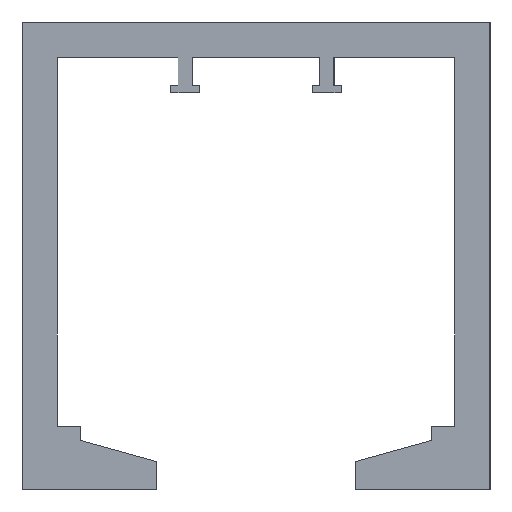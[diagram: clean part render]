
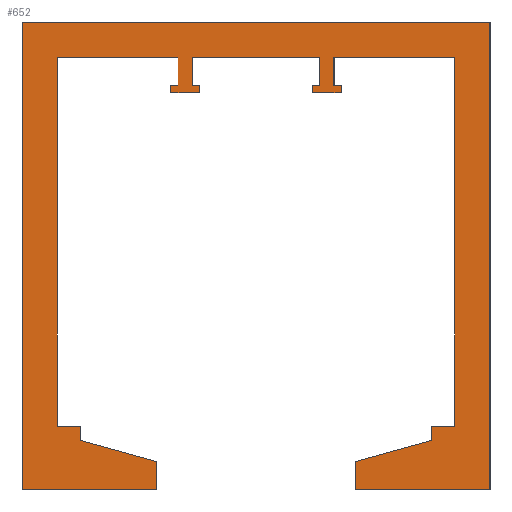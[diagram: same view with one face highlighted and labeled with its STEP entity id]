
A CAD part, left-side view. The second image highlights one B-rep face of the part: STEP entity #652.
In plain terms, the highlighted planar face has unit normal (-1, 0, 0).
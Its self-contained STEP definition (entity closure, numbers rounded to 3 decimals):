
#652=ADVANCED_FACE('',(#1178),#1179,.F.);
#1178=FACE_OUTER_BOUND('',#1876,.T.);
#1179=PLANE('',#1877);
#1876=EDGE_LOOP('',(#2536,#2537,#2538,#2539,#2540,#2541,#2542,#2543,#2544,#2545,#2546,#2547,#2548,#2549,#2550,#2551,#2552,#2553,#2554,#2555,#2556,#2557,#2558,#2559,#2560,#2561,#2562,#2563,#2564,#2565,#2566,#2567,#2568,#2569,#2570,#2571));
#1877=AXIS2_PLACEMENT_3D('',#2572,#2573,#2574);
#2536=ORIENTED_EDGE('',*,*,#3285,.T.);
#2537=ORIENTED_EDGE('',*,*,#3302,.T.);
#2538=ORIENTED_EDGE('',*,*,#3303,.T.);
#2539=ORIENTED_EDGE('',*,*,#3294,.T.);
#2540=ORIENTED_EDGE('',*,*,#3304,.F.);
#2541=ORIENTED_EDGE('',*,*,#3180,.T.);
#2542=ORIENTED_EDGE('',*,*,#3250,.T.);
#2543=ORIENTED_EDGE('',*,*,#3255,.F.);
#2544=ORIENTED_EDGE('',*,*,#3244,.F.);
#2545=ORIENTED_EDGE('',*,*,#3275,.T.);
#2546=ORIENTED_EDGE('',*,*,#3305,.T.);
#2547=ORIENTED_EDGE('',*,*,#3306,.T.);
#2548=ORIENTED_EDGE('',*,*,#3307,.T.);
#2549=ORIENTED_EDGE('',*,*,#3308,.T.);
#2550=ORIENTED_EDGE('',*,*,#3309,.T.);
#2551=ORIENTED_EDGE('',*,*,#3310,.T.);
#2552=ORIENTED_EDGE('',*,*,#3311,.F.);
#2553=ORIENTED_EDGE('',*,*,#3312,.T.);
#2554=ORIENTED_EDGE('',*,*,#3313,.T.);
#2555=ORIENTED_EDGE('',*,*,#3314,.T.);
#2556=ORIENTED_EDGE('',*,*,#3315,.T.);
#2557=ORIENTED_EDGE('',*,*,#3316,.T.);
#2558=ORIENTED_EDGE('',*,*,#3317,.T.);
#2559=ORIENTED_EDGE('',*,*,#3318,.T.);
#2560=ORIENTED_EDGE('',*,*,#3319,.F.);
#2561=ORIENTED_EDGE('',*,*,#3297,.F.);
#2562=ORIENTED_EDGE('',*,*,#3320,.F.);
#2563=ORIENTED_EDGE('',*,*,#3321,.T.);
#2564=ORIENTED_EDGE('',*,*,#3280,.T.);
#2565=ORIENTED_EDGE('',*,*,#3322,.F.);
#2566=ORIENTED_EDGE('',*,*,#3323,.F.);
#2567=ORIENTED_EDGE('',*,*,#3324,.F.);
#2568=ORIENTED_EDGE('',*,*,#3325,.T.);
#2569=ORIENTED_EDGE('',*,*,#3326,.T.);
#2570=ORIENTED_EDGE('',*,*,#3327,.T.);
#2571=ORIENTED_EDGE('',*,*,#3288,.T.);
#2572=CARTESIAN_POINT('',(0.0,5.0,-3.5));
#2573=DIRECTION('',(1.0,0.0,0.0));
#2574=DIRECTION('',(0.0,0.0,-1.0));
#3180=EDGE_CURVE('',#3692,#3690,#3693,.T.);
#3244=EDGE_CURVE('',#3784,#3787,#3788,.T.);
#3250=EDGE_CURVE('',#3690,#3795,#3797,.T.);
#3255=EDGE_CURVE('',#3787,#3795,#3804,.T.);
#3275=EDGE_CURVE('',#3784,#3827,#3829,.T.);
#3280=EDGE_CURVE('',#3837,#3835,#3838,.T.);
#3285=EDGE_CURVE('',#3846,#3844,#3847,.T.);
#3288=EDGE_CURVE('',#3850,#3846,#3851,.T.);
#3294=EDGE_CURVE('',#3861,#3859,#3862,.T.);
#3297=EDGE_CURVE('',#3865,#3866,#3867,.T.);
#3302=EDGE_CURVE('',#3844,#3874,#3875,.T.);
#3303=EDGE_CURVE('',#3874,#3861,#3876,.T.);
#3304=EDGE_CURVE('',#3692,#3859,#3877,.T.);
#3305=EDGE_CURVE('',#3827,#3878,#3879,.T.);
#3306=EDGE_CURVE('',#3878,#3880,#3881,.T.);
#3307=EDGE_CURVE('',#3880,#3882,#3883,.T.);
#3308=EDGE_CURVE('',#3882,#3884,#3885,.T.);
#3309=EDGE_CURVE('',#3884,#3886,#3887,.T.);
#3310=EDGE_CURVE('',#3886,#3888,#3889,.T.);
#3311=EDGE_CURVE('',#3890,#3888,#3891,.T.);
#3312=EDGE_CURVE('',#3890,#3892,#3893,.T.);
#3313=EDGE_CURVE('',#3892,#3894,#3895,.T.);
#3314=EDGE_CURVE('',#3894,#3896,#3897,.T.);
#3315=EDGE_CURVE('',#3896,#3898,#3899,.T.);
#3316=EDGE_CURVE('',#3898,#3900,#3901,.T.);
#3317=EDGE_CURVE('',#3900,#3902,#3903,.T.);
#3318=EDGE_CURVE('',#3902,#3904,#3905,.T.);
#3319=EDGE_CURVE('',#3866,#3904,#3906,.T.);
#3320=EDGE_CURVE('',#3907,#3865,#3908,.T.);
#3321=EDGE_CURVE('',#3907,#3837,#3909,.T.);
#3322=EDGE_CURVE('',#3910,#3835,#3911,.T.);
#3323=EDGE_CURVE('',#3912,#3910,#3913,.T.);
#3324=EDGE_CURVE('',#3914,#3912,#3915,.T.);
#3325=EDGE_CURVE('',#3914,#3916,#3917,.T.);
#3326=EDGE_CURVE('',#3916,#3918,#3919,.T.);
#3327=EDGE_CURVE('',#3918,#3850,#3920,.T.);
#3690=VERTEX_POINT('',#4144);
#3692=VERTEX_POINT('',#4146);
#3693=LINE('',#4147,#4148);
#3784=VERTEX_POINT('',#4267);
#3787=VERTEX_POINT('',#4270);
#3788=LINE('',#4271,#4272);
#3795=VERTEX_POINT('',#4281);
#3797=LINE('',#4283,#4284);
#3804=LINE('',#4292,#4293);
#3827=VERTEX_POINT('',#4323);
#3829=LINE('',#4326,#4327);
#3835=VERTEX_POINT('',#4334);
#3837=VERTEX_POINT('',#4337);
#3838=LINE('',#4338,#4339);
#3844=VERTEX_POINT('',#4347);
#3846=VERTEX_POINT('',#4350);
#3847=LINE('',#4351,#4352);
#3850=VERTEX_POINT('',#4356);
#3851=LINE('',#4357,#4358);
#3859=VERTEX_POINT('',#4369);
#3861=VERTEX_POINT('',#4372);
#3862=LINE('',#4373,#4374);
#3865=VERTEX_POINT('',#4378);
#3866=VERTEX_POINT('',#4379);
#3867=LINE('',#4380,#4381);
#3874=VERTEX_POINT('',#4391);
#3875=LINE('',#4392,#4393);
#3876=LINE('',#4394,#4395);
#3877=LINE('',#4396,#4397);
#3878=VERTEX_POINT('',#4398);
#3879=LINE('',#4399,#4400);
#3880=VERTEX_POINT('',#4401);
#3881=LINE('',#4402,#4403);
#3882=VERTEX_POINT('',#4404);
#3883=LINE('',#4405,#4406);
#3884=VERTEX_POINT('',#4407);
#3885=LINE('',#4408,#4409);
#3886=VERTEX_POINT('',#4410);
#3887=LINE('',#4411,#4412);
#3888=VERTEX_POINT('',#4413);
#3889=LINE('',#4414,#4415);
#3890=VERTEX_POINT('',#4416);
#3891=LINE('',#4417,#4418);
#3892=VERTEX_POINT('',#4419);
#3893=LINE('',#4420,#4421);
#3894=VERTEX_POINT('',#4422);
#3895=LINE('',#4423,#4424);
#3896=VERTEX_POINT('',#4425);
#3897=LINE('',#4426,#4427);
#3898=VERTEX_POINT('',#4428);
#3899=LINE('',#4429,#4430);
#3900=VERTEX_POINT('',#4431);
#3901=LINE('',#4432,#4433);
#3902=VERTEX_POINT('',#4434);
#3903=LINE('',#4435,#4436);
#3904=VERTEX_POINT('',#4437);
#3905=LINE('',#4438,#4439);
#3906=LINE('',#4440,#4441);
#3907=VERTEX_POINT('',#4442);
#3908=LINE('',#4443,#4444);
#3909=LINE('',#4445,#4446);
#3910=VERTEX_POINT('',#4447);
#3911=LINE('',#4448,#4449);
#3912=VERTEX_POINT('',#4450);
#3913=LINE('',#4451,#4452);
#3914=VERTEX_POINT('',#4453);
#3915=LINE('',#4454,#4455);
#3916=VERTEX_POINT('',#4456);
#3917=LINE('',#4457,#4458);
#3918=VERTEX_POINT('',#4459);
#3919=LINE('',#4460,#4461);
#3920=LINE('',#4462,#4463);
#4144=CARTESIAN_POINT('',(0.,5.5,-4.495));
#4146=CARTESIAN_POINT('',(0.0,5.5,-2.5));
#4147=CARTESIAN_POINT('',(0.0,5.5,-2.5));
#4148=VECTOR('',#4684,1.0);
#4267=CARTESIAN_POINT('',(0.,5.5,-4.497));
#4270=CARTESIAN_POINT('',(0.,5.505,-4.497));
#4271=CARTESIAN_POINT('',(0.,5.5,-4.497));
#4272=VECTOR('',#4764,1.0);
#4281=CARTESIAN_POINT('',(0.,5.505,-4.495));
#4283=CARTESIAN_POINT('',(0.,5.5,-4.495));
#4284=VECTOR('',#4773,1.0);
#4292=CARTESIAN_POINT('',(0.,5.505,-4.497));
#4293=VECTOR('',#4781,1.0);
#4323=CARTESIAN_POINT('',(0.0,5.5,-4.5));
#4326=CARTESIAN_POINT('',(0.0,5.5,-2.5));
#4327=VECTOR('',#4802,1.0);
#4334=CARTESIAN_POINT('',(0.0,-7.0,-31.0));
#4337=CARTESIAN_POINT('',(0.0,-12.375,-29.5));
#4338=CARTESIAN_POINT('',(0.0,-4.993,-31.56));
#4339=VECTOR('',#4805,1.0);
#4347=CARTESIAN_POINT('',(0.0,12.375,-29.5));
#4350=CARTESIAN_POINT('',(0.0,7.0,-31.0));
#4351=CARTESIAN_POINT('',(0.0,12.32,-29.515));
#4352=VECTOR('',#4809,1.0);
#4356=CARTESIAN_POINT('',(0.0,7.0,-33.0));
#4357=CARTESIAN_POINT('',(0.0,7.0,-33.0));
#4358=VECTOR('',#4811,1.0);
#4369=CARTESIAN_POINT('',(0.0,14.0,-2.5));
#4372=CARTESIAN_POINT('',(0.0,14.0,-28.5));
#4373=CARTESIAN_POINT('',(0.0,14.0,-28.5));
#4374=VECTOR('',#4816,1.0);
#4378=CARTESIAN_POINT('',(0.0,-14.0,-28.5));
#4379=CARTESIAN_POINT('',(0.0,-14.0,-2.5));
#4380=CARTESIAN_POINT('',(0.0,-14.0,-28.5));
#4381=VECTOR('',#4818,1.0);
#4391=CARTESIAN_POINT('',(0.0,12.375,-28.5));
#4392=CARTESIAN_POINT('',(0.0,12.375,-29.26));
#4393=VECTOR('',#4822,1.0);
#4394=CARTESIAN_POINT('',(0.0,12.375,-28.5));
#4395=VECTOR('',#4823,1.0);
#4396=CARTESIAN_POINT('',(0.0,-14.0,-2.5));
#4397=VECTOR('',#4824,1.0);
#4398=CARTESIAN_POINT('',(0.0,6.0,-4.5));
#4399=CARTESIAN_POINT('',(0.0,4.0,-4.5));
#4400=VECTOR('',#4825,1.0);
#4401=CARTESIAN_POINT('',(0.0,6.0,-5.0));
#4402=CARTESIAN_POINT('',(0.0,6.0,-4.5));
#4403=VECTOR('',#4826,1.0);
#4404=CARTESIAN_POINT('',(0.0,4.0,-5.0));
#4405=CARTESIAN_POINT('',(0.0,6.0,-5.0));
#4406=VECTOR('',#4827,1.0);
#4407=CARTESIAN_POINT('',(0.0,4.0,-4.5));
#4408=CARTESIAN_POINT('',(0.0,4.0,-5.0));
#4409=VECTOR('',#4828,1.0);
#4410=CARTESIAN_POINT('',(0.0,4.5,-4.5));
#4411=CARTESIAN_POINT('',(0.0,4.0,-4.5));
#4412=VECTOR('',#4829,1.0);
#4413=CARTESIAN_POINT('',(0.0,4.5,-2.5));
#4414=CARTESIAN_POINT('',(0.0,4.5,-4.5));
#4415=VECTOR('',#4830,1.0);
#4416=CARTESIAN_POINT('',(0.0,-4.5,-2.5));
#4417=CARTESIAN_POINT('',(0.0,-14.0,-2.5));
#4418=VECTOR('',#4831,1.0);
#4419=CARTESIAN_POINT('',(0.0,-4.5,-4.5));
#4420=CARTESIAN_POINT('',(0.0,-4.5,-2.5));
#4421=VECTOR('',#4832,1.0);
#4422=CARTESIAN_POINT('',(0.0,-4.0,-4.5));
#4423=CARTESIAN_POINT('',(0.0,-6.0,-4.5));
#4424=VECTOR('',#4833,1.0);
#4425=CARTESIAN_POINT('',(0.0,-4.0,-5.0));
#4426=CARTESIAN_POINT('',(0.0,-4.0,-4.5));
#4427=VECTOR('',#4834,1.0);
#4428=CARTESIAN_POINT('',(0.0,-6.0,-5.0));
#4429=CARTESIAN_POINT('',(0.0,-4.0,-5.0));
#4430=VECTOR('',#4835,1.0);
#4431=CARTESIAN_POINT('',(0.0,-6.0,-4.5));
#4432=CARTESIAN_POINT('',(0.0,-6.0,-5.0));
#4433=VECTOR('',#4836,1.0);
#4434=CARTESIAN_POINT('',(0.0,-5.5,-4.5));
#4435=CARTESIAN_POINT('',(0.0,-6.0,-4.5));
#4436=VECTOR('',#4837,1.0);
#4437=CARTESIAN_POINT('',(0.0,-5.5,-2.5));
#4438=CARTESIAN_POINT('',(0.0,-5.5,-4.5));
#4439=VECTOR('',#4838,1.0);
#4440=CARTESIAN_POINT('',(0.0,-14.0,-2.5));
#4441=VECTOR('',#4839,1.0);
#4442=CARTESIAN_POINT('',(0.0,-12.375,-28.5));
#4443=CARTESIAN_POINT('',(0.0,-12.375,-28.5));
#4444=VECTOR('',#4840,1.0);
#4445=CARTESIAN_POINT('',(0.0,-12.375,-16.5));
#4446=VECTOR('',#4841,1.0);
#4447=CARTESIAN_POINT('',(0.0,-7.0,-33.0));
#4448=CARTESIAN_POINT('',(0.0,-7.0,-33.0));
#4449=VECTOR('',#4842,1.0);
#4450=CARTESIAN_POINT('',(0.0,-16.5,-33.0));
#4451=CARTESIAN_POINT('',(0.0,-16.5,-33.0));
#4452=VECTOR('',#4843,1.0);
#4453=CARTESIAN_POINT('',(0.0,-16.5,0.0));
#4454=CARTESIAN_POINT('',(0.0,-16.5,0.0));
#4455=VECTOR('',#4844,1.0);
#4456=CARTESIAN_POINT('',(0.0,16.5,0.0));
#4457=CARTESIAN_POINT('',(0.0,0.0,0.0));
#4458=VECTOR('',#4845,1.0);
#4459=CARTESIAN_POINT('',(0.0,16.5,-33.0));
#4460=CARTESIAN_POINT('',(0.0,16.5,0.0));
#4461=VECTOR('',#4846,1.0);
#4462=CARTESIAN_POINT('',(0.0,16.5,-33.0));
#4463=VECTOR('',#4847,1.0);
#4684=DIRECTION('',(0.0,0.0,-1.0));
#4764=DIRECTION('',(0.0,1.0,0.));
#4773=DIRECTION('',(0.0,1.0,0.));
#4781=DIRECTION('',(0.,0.,1.0));
#4802=DIRECTION('',(0.0,0.0,-1.0));
#4805=DIRECTION('',(0.0,0.963,-0.269));
#4809=DIRECTION('',(0.0,0.963,0.269));
#4811=DIRECTION('',(0.0,0.0,1.0));
#4816=DIRECTION('',(0.0,0.0,1.0));
#4818=DIRECTION('',(0.0,0.0,1.0));
#4822=DIRECTION('',(0.0,0.0,1.0));
#4823=DIRECTION('',(0.0,1.0,0.0));
#4824=DIRECTION('',(0.0,1.0,0.0));
#4825=DIRECTION('',(0.0,1.0,0.0));
#4826=DIRECTION('',(0.0,0.0,-1.0));
#4827=DIRECTION('',(0.0,-1.0,0.0));
#4828=DIRECTION('',(0.0,0.0,1.0));
#4829=DIRECTION('',(0.0,1.0,0.0));
#4830=DIRECTION('',(0.0,0.0,1.0));
#4831=DIRECTION('',(0.0,1.0,0.0));
#4832=DIRECTION('',(0.0,0.0,-1.0));
#4833=DIRECTION('',(0.0,1.0,0.0));
#4834=DIRECTION('',(0.0,0.0,-1.0));
#4835=DIRECTION('',(0.0,-1.0,0.0));
#4836=DIRECTION('',(0.0,0.0,1.0));
#4837=DIRECTION('',(0.0,1.0,0.0));
#4838=DIRECTION('',(0.0,0.0,1.0));
#4839=DIRECTION('',(0.0,1.0,0.0));
#4840=DIRECTION('',(0.0,-1.0,0.0));
#4841=DIRECTION('',(0.0,0.0,-1.0));
#4842=DIRECTION('',(0.0,0.0,1.0));
#4843=DIRECTION('',(0.0,1.0,0.0));
#4844=DIRECTION('',(0.0,0.0,-1.0));
#4845=DIRECTION('',(0.0,1.0,0.0));
#4846=DIRECTION('',(0.0,0.0,-1.0));
#4847=DIRECTION('',(0.0,-1.0,0.0));
